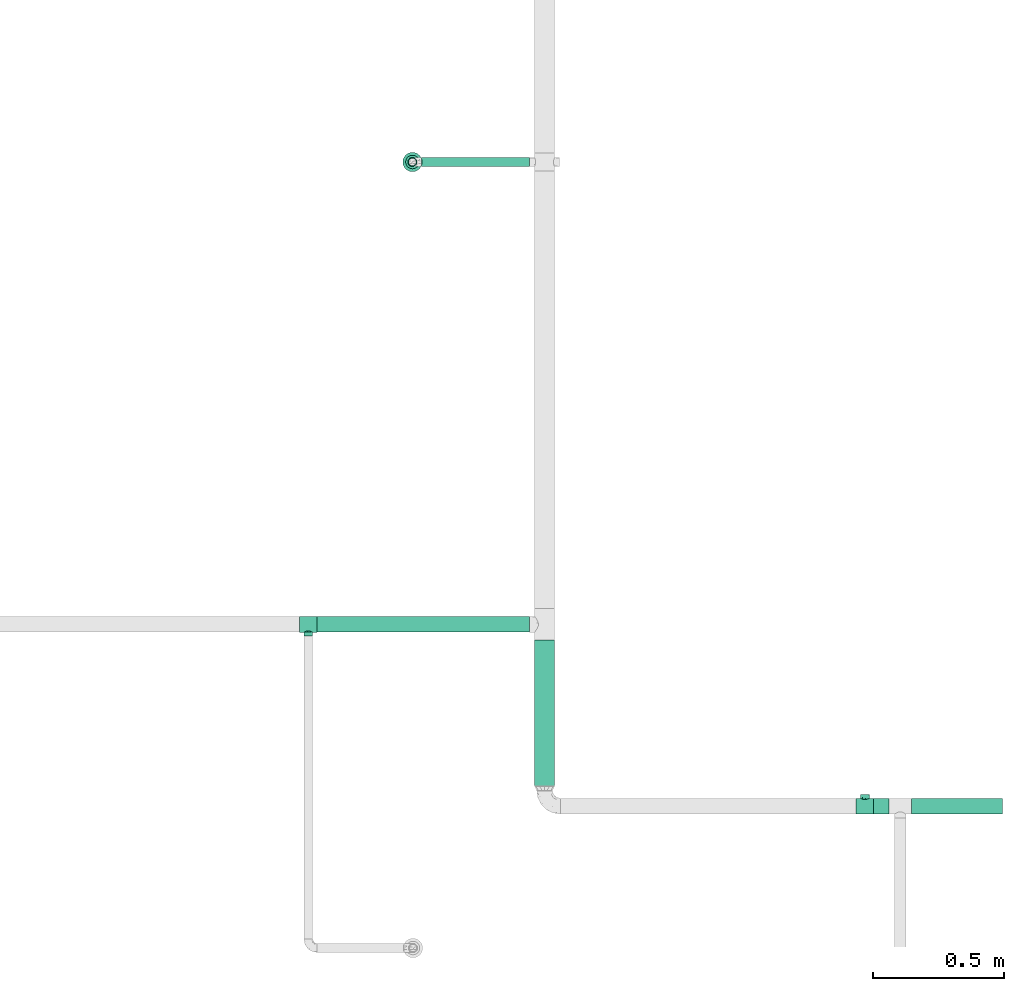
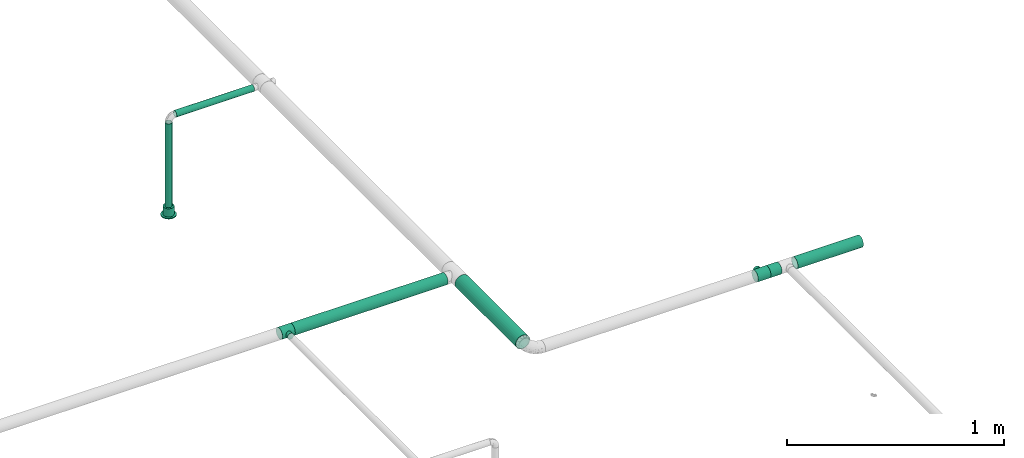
# One storey, part 27 of 95: 6 flow segments, 2 flow fittings, 1 flow terminal.
"""IFC2X3 building model written with IfcOpenShell, lengths in millimetres."""

from ifc_helpers import new_model, entity, si_unit, converted_unit, derived_unit, direction, frame, origin_with_axes, origin_2d_with_axis, place, context, subcontext, project, spatial, hollow_circle, extrude, open_shell, surface_model, source, transform, mapped, type_object, element, save


model = new_model("IFC2X3")

# Units and contexts
model_context = context("Model", 3, precision=0.01, world=frame((0.0, 4.29681676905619e-09, 0.0)), true_north=direction((4.01073788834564e-13, 1.0)))
plan_context = context("Plan", 3, precision=0.01, world=frame((0.0, 4.29681676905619e-09, 0.0)), true_north=direction((4.01073788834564e-13, 1.0)))
body_context = subcontext(model_context, "Body", "Model", "MODEL_VIEW")
ifc_project = project(units=[converted_unit("PLANEANGLEUNIT", "DEGREE", entity("IfcPositiveLengthMeasure", 0.0174532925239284), si_unit("PLANEANGLEUNIT", "RADIAN"), dimensions=[0, 0, 0, 0, 0, 0, 0]), si_unit("AREAUNIT", "SQUARE_METRE"), si_unit("LENGTHUNIT", "METRE", prefix="MILLI"), si_unit("MASSUNIT", "GRAM", prefix="KILO"), si_unit("POWERUNIT", "WATT"), si_unit("PRESSUREUNIT", "PASCAL"), si_unit("FORCEUNIT", "NEWTON", prefix="KILO"), si_unit("ELECTRICVOLTAGEUNIT", "VOLT"), si_unit("ELECTRICCURRENTUNIT", "AMPERE"), si_unit("THERMODYNAMICTEMPERATUREUNIT", "DEGREE_CELSIUS"), si_unit("TIMEUNIT", "SECOND"), si_unit("VOLUMEUNIT", "CUBIC_METRE"), derived_unit("LINEARVELOCITYUNIT", [(si_unit("LENGTHUNIT", "METRE"), 1), (si_unit("TIMEUNIT", "SECOND"), -1)]), derived_unit("VOLUMETRICFLOWRATEUNIT", [(si_unit("VOLUMEUNIT", "CUBIC_METRE"), 1), (si_unit("TIMEUNIT", "SECOND"), -1)]), derived_unit("THERMALTRANSMITTANCEUNIT", [(si_unit("POWERUNIT", "WATT"), 1), (si_unit("THERMODYNAMICTEMPERATUREUNIT", "KELVIN"), -1), (si_unit("AREAUNIT", "SQUARE_METRE"), -1)]), derived_unit("SOUNDPRESSUREUNIT", [(si_unit("PRESSUREUNIT", "PASCAL"), 1)])], contexts=[model_context, plan_context])

# Site, building, storey
site_placement = place(None, frame((0.0, -4.29681676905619e-09, 0.0), z_axis=(0.0, 0.0, 1.0), x_axis=(1.0, 0.0, 0.0)))
site = spatial("IfcSite", under=ifc_project, at=site_placement, CompositionType="ELEMENT")
building_placement = place(site_placement, frame((0.0, 4.29681676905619e-09, 0.0), z_axis=(0.0, 0.0, 1.0), x_axis=(1.0, 0.0, 0.0)))
building = spatial("IfcBuilding", under=site, at=building_placement, Name="mc-building", CompositionType="ELEMENT")
storey_placement = place(building_placement, frame((0.0, 0.0, 210900.0), z_axis=(0.0, 0.0, 1.0), x_axis=(1.0, 0.0, 0.0)))
storey = spatial("IfcBuildingStorey", under=building, at=storey_placement, Name="Nivå F", CompositionType="ELEMENT", Elevation=210900.0)

# Flow fittings
pipe_fitting_type = type_object("IfcPipeFittingType", Name="magi_pipe_fe_tee_centric_90_NOR", PredefinedType="JUNCTION")
shared_shape_1 = source(origin_with_axes(), body_context, "Body", "SurfaceModel", [
    surface_model("IfcShellBasedSurfaceModel", [(-33.8, 15.1, -26.15397), (-33.8, 7.81634, -29.17096), (-33.8, 0.0, -30.2), (-33.8, 29.17096, -7.81634), (-33.8, 26.15397, -15.1), (-33.8, 21.35462, -21.35462), (-33.8, 30.2, 0.0), (-33.8, -30.2, 0.0), (-33.8, -15.1, -26.15397), (-33.8, -21.35462, -21.35462), (-33.8, -7.81634, -29.17096), (-33.8, -26.15397, -15.1), (-33.8, -29.17096, -7.81634), (-33.8, 26.15397, 15.1), (-33.8, 29.17096, 7.81634), (-33.8, 15.1, 26.15397), (-33.8, -21.35462, 21.35462), (-33.8, 21.35462, 21.35462), (-33.8, 7.81634, 29.17096), (-33.8, -29.17096, 7.81634), (-33.8, -26.15397, 15.1), (-33.8, -7.81634, 29.17096), (-33.8, 0.0, 30.2), (-33.8, -15.1, 26.15397), (33.8, 29.17096, -7.81634), (33.8, 0.0, -30.2), (33.8, 7.81634, -29.17096), (33.8, 21.35462, -21.35462), (33.8, 15.1, -26.15397), (33.8, 26.15397, -15.1), (33.8, -30.2, 0.0), (33.8, -7.81634, -29.17096), (33.8, -21.35462, -21.35462), (33.8, -15.1, -26.15397), (33.8, -29.17096, -7.81634), (33.8, -26.15397, -15.1), (33.8, 30.2, 0.0), (33.8, 29.17096, 7.81634), (33.8, 26.15397, 15.1), (33.8, -29.17096, 7.81634), (33.8, 15.1, 26.15397), (33.8, 7.81634, 29.17096), (33.8, 21.35462, 21.35462), (33.8, -21.35462, 21.35462), (33.8, -26.15397, 15.1), (33.8, -15.1, 26.15397), (33.8, 0.0, 30.2), (33.8, -7.81634, 29.17096), (33.8, -29.68548, 3.90817), (15.846, -29.62306, 5.87488), (16.373, -29.91153, 2.93744), (12.91037, -28.16217, 10.90561), (2.99213, -25.2068, 16.63301), (16.9, -30.2, 0.0), (33.8, -27.66246, 11.45817), (8.50854, -26.43531, 14.60187), (-8.51006, -26.43579, 14.60099), (-33.8, -27.66246, 11.45817), (-12.91447, -28.16405, 10.90075), (-15.84655, -29.62335, 5.87341), (-33.8, -29.68548, 3.90817), (-16.37327, -29.91168, 2.93671), (-16.9, -30.2, 0.0), (-2.99705, -25.20739, 16.63213), (2.99213, -25.2068, -16.63301), (-16.37327, -29.91168, -2.93671), (8.50854, -26.43531, -14.60187), (33.8, -27.66246, -11.45817), (16.373, -29.91153, -2.93744), (-33.8, -29.68548, -3.90817), (-15.84655, -29.62335, -5.87341), (15.846, -29.62306, -5.87488), (12.91037, -28.16217, -10.90561), (33.8, -29.68548, -3.90817), (-2.99705, -25.20739, -16.63213), (-8.51006, -26.43579, -14.60099), (-12.91447, -28.16405, -10.90075), (-33.8, -27.66246, -11.45817), (4.37404, -45.3, -16.32415), (-16.9, -45.3, 0.0), (0.0, -45.3, -16.9), (14.63583, -45.3, -8.45), (8.45, -45.3, -14.63583), (16.32415, -45.3, -4.37404), (11.9501, -45.3, -11.9501), (-11.9501, -45.3, -11.9501), (-8.45, -45.3, -14.63583), (-4.37404, -45.3, -16.32415), (-14.63583, -45.3, -8.45), (-16.32415, -45.3, -4.37404), (16.9, -45.3, 0.0), (8.45, -45.3, 14.63583), (16.32415, -45.3, 4.37404), (14.63583, -45.3, 8.45), (-8.45, -45.3, 14.63583), (11.9501, -45.3, 11.9501), (4.37404, -45.3, 16.32415), (-16.32415, -45.3, 4.37404), (-11.9501, -45.3, 11.9501), (-14.63583, -45.3, 8.45), (0.0, -45.3, 16.9), (-4.37404, -45.3, 16.32415), (-5.75355, -25.82159, 15.61656), (-0.00246, -25.20709, 16.63257), (5.75034, -25.82105, 15.61744), (5.75034, -25.82105, -15.61744), (-0.00246, -25.20709, -16.63257), (-5.75355, -25.82159, -15.61656)], [open_shell([[[0, 1, 2]], [[3, 0, 2]], [[0, 3, 4]], [[5, 0, 4]], [[6, 2, 7]], [[8, 9, 10]], [[9, 2, 10]], [[11, 12, 9]], [[7, 9, 12]], [[9, 7, 2]], [[6, 3, 2]], [[13, 14, 6]], [[7, 15, 13]], [[7, 16, 15]], [[17, 13, 15]], [[18, 15, 16]], [[19, 20, 7]], [[7, 20, 16]], [[21, 22, 23]], [[16, 23, 22]], [[16, 22, 18]], [[7, 13, 6]], [[24, 25, 26]], [[27, 26, 28]], [[29, 24, 26]], [[29, 26, 27]], [[25, 24, 30]], [[31, 32, 33]], [[32, 31, 34]], [[32, 34, 35]], [[34, 31, 30]], [[31, 25, 30]], [[24, 36, 30]], [[36, 37, 38]], [[39, 36, 38]], [[40, 41, 38]], [[40, 38, 42]], [[43, 38, 41]], [[39, 43, 44]], [[39, 38, 43]], [[45, 46, 47]], [[46, 45, 43]], [[41, 46, 43]], [[36, 39, 30]], [[48, 39, 49]], [[30, 48, 50]], [[39, 51, 49]], [[44, 43, 52]], [[30, 50, 53]], [[51, 54, 55]], [[52, 55, 44]], [[48, 49, 50]], [[43, 16, 52]], [[55, 54, 44]], [[56, 57, 58]], [[59, 60, 61]], [[62, 61, 7]], [[59, 58, 19]], [[56, 63, 20]], [[51, 39, 54]], [[20, 57, 56]], [[20, 63, 16]], [[58, 57, 19]], [[63, 52, 16]], [[7, 61, 60]], [[59, 19, 60]], [[43, 23, 16]], [[22, 47, 46]], [[21, 45, 47]], [[18, 46, 41]], [[38, 37, 14]], [[17, 40, 42]], [[13, 42, 38]], [[41, 40, 15]], [[6, 37, 36]], [[23, 45, 21]], [[21, 47, 22]], [[18, 22, 46]], [[41, 15, 18]], [[15, 40, 17]], [[13, 17, 42]], [[14, 13, 38]], [[37, 6, 14]], [[45, 23, 43]], [[4, 24, 29]], [[3, 36, 24]], [[5, 29, 27]], [[25, 31, 10]], [[1, 28, 26]], [[2, 26, 25]], [[27, 28, 0]], [[8, 31, 33]], [[6, 36, 3]], [[3, 24, 4]], [[5, 4, 29]], [[27, 0, 5]], [[0, 28, 1]], [[2, 1, 26]], [[10, 2, 25]], [[31, 8, 10]], [[33, 9, 8]], [[32, 35, 64]], [[7, 65, 62]], [[66, 64, 35]], [[67, 66, 35]], [[32, 64, 9]], [[53, 68, 30]], [[69, 70, 65]], [[71, 72, 34]], [[71, 73, 68]], [[66, 67, 72]], [[34, 72, 67]], [[74, 75, 11]], [[76, 12, 77]], [[11, 9, 74]], [[76, 77, 75]], [[74, 9, 64]], [[76, 70, 12]], [[71, 34, 73]], [[70, 69, 12]], [[65, 7, 69]], [[30, 68, 73]], [[77, 11, 75]], [[32, 9, 33]], [[78, 79, 80]], [[81, 78, 82]], [[81, 83, 78]], [[81, 82, 84]], [[79, 78, 83]], [[80, 85, 86]], [[86, 87, 80]], [[88, 79, 89]], [[85, 80, 88]], [[79, 88, 80]], [[83, 90, 79]], [[91, 90, 92]], [[91, 92, 93]], [[94, 79, 91]], [[91, 93, 95]], [[94, 91, 96]], [[97, 98, 99]], [[98, 97, 94]], [[94, 100, 101]], [[97, 79, 94]], [[96, 100, 94]], [[91, 79, 90]], [[97, 61, 79]], [[58, 99, 98]], [[97, 99, 59]], [[98, 94, 56]], [[61, 62, 79]], [[59, 99, 58]], [[101, 63, 102]], [[56, 58, 98]], [[100, 52, 103]], [[91, 104, 96]], [[100, 96, 52]], [[50, 49, 92]], [[50, 90, 53]], [[104, 91, 55]], [[102, 94, 101]], [[102, 56, 94]], [[100, 63, 101]], [[97, 59, 61]], [[55, 91, 95]], [[95, 51, 55]], [[52, 96, 104]], [[92, 49, 93]], [[90, 50, 92]], [[93, 49, 51]], [[93, 51, 95]], [[103, 63, 100]], [[83, 68, 90]], [[72, 81, 84]], [[83, 81, 71]], [[84, 82, 66]], [[68, 53, 90]], [[71, 81, 72]], [[78, 64, 105]], [[66, 72, 84]], [[80, 74, 106]], [[86, 107, 87]], [[65, 70, 89]], [[105, 82, 78]], [[105, 66, 82]], [[75, 86, 85]], [[83, 71, 68]], [[70, 88, 89]], [[65, 79, 62]], [[85, 88, 76]], [[80, 64, 78]], [[87, 107, 74]], [[74, 80, 87]], [[75, 107, 86]], [[75, 85, 76]], [[76, 88, 70]], [[79, 65, 89]], [[106, 64, 80]]])]),
])
for number, where, z_axis, x_axis, name in (
    (1, (533699.81038, 450838.0, 4310.0), (0.0, 0.0, 1.0), (1.0, 0.0, 0.0), "magi_pipe_fe_tee_centric_90_NOR"),
    (2, (535827.14809, 450142.9624, 4310.0), (0.0, 0.0, -1.0), (1.0, 0.0, 0.0), "magi_pipe_fe_tee_centric_90_NOR"),
):
    element("IfcFlowFitting", number, at=place(storey_placement, frame(where, z_axis=z_axis, x_axis=x_axis)), inside=storey, type_object=pipe_fitting_type, Name=name, context=body_context, shape_type="MappedRepresentation", body=[
        mapped(shared_shape_1, transform((0.0, 0.0, 0.0), scale=1.0)),
    ])

# Flow segments
pipe_segment_type = type_object("IfcPipeSegmentType", Name="Stålrør normaltykke", PredefinedType="RIGIDSEGMENT")
shared_shape_2 = source(origin_with_axes(), body_context, "Body", "SweptSolid", [
    extrude(hollow_circle(Radius=38.0, WallThickness=2.0, at=origin_2d_with_axis()), frame((0.0, 0.0, 0.0), z_axis=(1.0, 0.0, 0.0), x_axis=(0.0, 1.0, 0.0)), (0.0, 0.0, 1.0), 558.4),
])
flow_segment_1_placement = place(storey_placement, frame((534602.7875, 450219.1624, 4310.0), z_axis=(0.0, 0.0, 1.0), x_axis=(0.0, 1.0, 0.0)))
element("IfcFlowSegment", 3, at=flow_segment_1_placement, inside=storey, type_object=pipe_segment_type, Name="Stålrør normaltykke", context=body_context, shape_type="MappedRepresentation", body=[
    mapped(shared_shape_2, transform((0.0, 0.0, 0.0), scale=1.0)),
])
shared_shape_3 = source(origin_with_axes(), body_context, "Body", "SweptSolid", [
    extrude(hollow_circle(Radius=16.9, WallThickness=2.0, at=origin_2d_with_axis()), frame((0.0, 0.0, 0.0), z_axis=(1.0, 0.0, 0.0), x_axis=(0.0, 1.0, 0.0)), (0.0, 0.0, 1.0), 506.9),
])
flow_segment_2_placement = place(storey_placement, frame((534097.84018, 452605.11719, 4276.20000000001), z_axis=(-0.000893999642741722, -0.99999960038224, 0.0), x_axis=(0.0, 0.0, -1.0)))
element("IfcFlowSegment", 4, at=flow_segment_2_placement, inside=storey, type_object=pipe_segment_type, Name="Stålrør normaltykke", context=body_context, shape_type="MappedRepresentation", body=[
    mapped(shared_shape_3, transform((0.0, 0.0, 0.0), scale=1.0)),
])
shared_shape_4 = source(origin_with_axes(), body_context, "Body", "SweptSolid", [
    extrude(hollow_circle(Radius=30.1, WallThickness=2.0, at=origin_2d_with_axis()), frame((0.0, 0.0, 0.0), z_axis=(1.0, 0.0, 0.0), x_axis=(0.0, 1.0, 0.0)), (0.0, 0.0, 1.0), 347.8),
])
flow_segment_3_placement = place(storey_placement, frame((536352.47584, 450142.9624, 4310.0), z_axis=(0.0, 0.0, 1.0), x_axis=(-1.0, 0.0, 0.0)))
element("IfcFlowSegment", 5, at=flow_segment_3_placement, inside=storey, type_object=pipe_segment_type, Name="Stålrør normaltykke", context=body_context, shape_type="MappedRepresentation", body=[
    mapped(shared_shape_4, transform((0.0, 0.0, 0.0), scale=1.0)),
])
shared_shape_5 = source(origin_with_axes(), body_context, "Body", "SweptSolid", [
    extrude(hollow_circle(Radius=30.1, WallThickness=2.0, at=origin_2d_with_axis()), frame((0.0, 0.0, 0.0), z_axis=(1.0, 0.0, 0.0), x_axis=(0.0, 1.0, 0.0)), (0.0, 0.0, 1.0), 812.0),
])
flow_segment_4_placement = place(storey_placement, frame((534545.6375, 450838.0, 4310.0), z_axis=(0.0, 0.0, 1.0), x_axis=(-1.0, 0.0, 0.0)))
element("IfcFlowSegment", 6, at=flow_segment_4_placement, inside=storey, type_object=pipe_segment_type, Name="Stålrør normaltykke", context=body_context, shape_type="MappedRepresentation", body=[
    mapped(shared_shape_5, transform((0.0, 0.0, 0.0), scale=1.0)),
])
shared_shape_6 = source(origin_with_axes(), body_context, "Body", "SweptSolid", [
    extrude(hollow_circle(Radius=16.9, WallThickness=2.0, at=origin_2d_with_axis()), frame((0.0, 0.0, 0.0), z_axis=(1.0, 0.0, 0.0), x_axis=(0.0, 1.0, 0.0)), (0.0, 0.0, 1.0), 414.0),
])
flow_segment_5_placement = place(storey_placement, frame((534131.64018, 452605.11719, 4310.0), z_axis=(0.0, 0.0, 1.0), x_axis=(1.0, 0.0, 0.0)))
element("IfcFlowSegment", 7, at=flow_segment_5_placement, inside=storey, type_object=pipe_segment_type, Name="Stålrør normaltykke", context=body_context, shape_type="MappedRepresentation", body=[
    mapped(shared_shape_6, transform((0.0, 0.0, 0.0), scale=1.0)),
])
shared_shape_7 = source(origin_with_axes(), body_context, "Body", "SweptSolid", [
    extrude(hollow_circle(Radius=30.1, WallThickness=2.0, at=origin_2d_with_axis()), frame((0.0, 0.0, 0.0), z_axis=(1.0, 0.0, 0.0), x_axis=(0.0, 1.0, 0.0)), (0.0, 0.0, 1.0), 58.9),
])
flow_segment_6_placement = place(storey_placement, frame((535919.84677, 450142.9624, 4310.0), z_axis=(0.0, 0.0, 1.0), x_axis=(-1.0, 0.0, 0.0)))
element("IfcFlowSegment", 8, at=flow_segment_6_placement, inside=storey, type_object=pipe_segment_type, Name="Stålrør normaltykke", context=body_context, shape_type="MappedRepresentation", body=[
    mapped(shared_shape_7, transform((0.0, 0.0, 0.0), scale=1.0)),
])

# Flow terminal
fire_suppression_terminal_type = type_object("IfcFireSuppressionTerminalType", Name="68DGR-STD-SKJULT I HIMLING", PredefinedType="NOTDEFINED")
shared_shape_8 = source(origin_with_axes(), body_context, "Body", "SurfaceModel", [
    surface_model("IfcShellBasedSurfaceModel", [(-26.0, 0.0, -46.0), (-25.11407, -6.72929, -46.0), (-25.11407, -6.72929, 0.0), (6.72929, -25.11407, 0.0), (6.72929, -25.11407, -46.0), (13.0, -22.51666, -46.0), (22.51666, -13.0, -46.0), (22.51666, -13.0, 0.0), (18.38478, -18.38478, 0.0), (25.11407, -6.72929, 0.0), (25.11407, -6.72929, -46.0), (26.0, 0.0, -46.0), (26.0, 0.0, 0.0), (25.11407, 6.72929, -46.0), (22.51666, 13.0, 0.0), (25.11407, 6.72929, 0.0), (13.0, 22.51666, -46.0), (6.72929, 25.11407, -46.0), (6.72929, 25.11407, 0.0), (18.38478, 18.38478, 0.0), (22.51666, 13.0, -46.0), (-25.11407, 6.72929, 0.0), (-25.11407, 6.72929, -46.0), (-26.16295, -26.16295, 5.0), (35.73926, -9.57631, 5.0), (37.0, 0.0, 5.0), (13.0, 22.51666, 0.0), (-26.0, 0.0, 0.0), (-13.0, 22.51666, 0.0), (-6.72929, 25.11407, 0.0), (0.0, 26.0, 0.0), (-22.51666, 13.0, 0.0), (-18.38478, 18.38478, 0.0), (13.0, -22.51666, 0.0), (0.0, -26.0, 0.0), (-22.51666, -13.0, 0.0), (-18.38478, -18.38478, 0.0), (-13.0, -22.51666, 0.0), (-6.72929, -25.11407, 0.0), (0.0, -26.0, -46.0), (18.38478, -18.38478, -46.0), (-18.38478, -18.38478, -46.0), (-13.0, -22.51666, -46.0), (-6.72929, -25.11407, -46.0), (-22.51666, -13.0, -46.0), (18.38478, 18.38478, -46.0), (-22.51666, 13.0, -46.0), (-18.38478, 18.38478, -46.0), (-13.0, 22.51666, -46.0), (-6.72929, 25.11407, -46.0), (0.0, 26.0, -46.0), (18.5, 32.04294, 5.0), (9.57631, 35.73926, 5.0), (35.73926, 9.57631, 5.0), (26.16295, 26.16295, 5.0), (32.04294, 18.5, 5.0), (-35.73926, -9.57631, 5.0), (-18.5, 32.04294, 5.0), (-9.57631, 35.73926, 5.0), (0.0, 37.0, 5.0), (-32.04294, 18.5, 5.0), (-35.73926, 9.57631, 5.0), (-26.16295, 26.16295, 5.0), (-37.0, 0.0, 5.0), (32.04294, -18.5, 5.0), (0.0, -37.0, 5.0), (26.16295, -26.16295, 5.0), (18.5, -32.04294, 5.0), (9.57631, -35.73926, 5.0), (-9.57631, -35.73926, 5.0), (-32.04294, -18.5, 5.0), (-18.5, -32.04294, 5.0), (18.5, -32.04294, 0.0), (9.57631, -35.73926, 0.0), (0.0, -37.0, 0.0), (32.04294, -18.5, 0.0), (-26.16295, -26.16295, 0.0), (26.16295, -26.16295, 0.0), (-35.73926, 9.57631, 0.0), (-18.5, -32.04294, 0.0), (-9.57631, -35.73926, 0.0), (-32.04294, -18.5, 0.0), (-35.73926, -9.57631, 0.0), (-37.0, 0.0, 0.0), (35.73926, -9.57631, 0.0), (35.73926, 9.57631, 0.0), (32.04294, 18.5, 0.0), (18.5, 32.04294, 0.0), (9.57631, 35.73926, 0.0), (26.16295, 26.16295, 0.0), (-32.04294, 18.5, 0.0), (-26.16295, 26.16295, 0.0), (-9.57631, 35.73926, 0.0), (0.0, 37.0, 0.0), (-18.5, 32.04294, 0.0), (37.0, 0.0, 0.0)], [open_shell([[[0, 1, 2]], [[3, 4, 5]], [[6, 7, 8]], [[9, 7, 10]], [[11, 12, 9]], [[13, 14, 15]], [[15, 12, 11]], [[16, 17, 18]], [[19, 14, 20]], [[21, 22, 0]], [[23, 24, 25]], [[19, 26, 18]], [[19, 18, 21]], [[27, 15, 19]], [[14, 19, 15]], [[19, 21, 27]], [[28, 21, 29]], [[18, 30, 29]], [[31, 21, 32]], [[28, 32, 21]], [[29, 21, 18]], [[12, 15, 27]], [[8, 7, 9]], [[33, 8, 9]], [[34, 3, 33]], [[9, 34, 33]], [[27, 34, 9]], [[2, 35, 27]], [[36, 27, 35]], [[37, 38, 36]], [[34, 27, 36]], [[36, 38, 34]], [[12, 27, 9]], [[5, 4, 39]], [[5, 39, 22]], [[10, 6, 40]], [[5, 10, 40]], [[39, 41, 22]], [[42, 41, 43]], [[41, 39, 43]], [[1, 0, 44]], [[44, 0, 22]], [[22, 41, 44]], [[10, 5, 22]], [[45, 13, 10]], [[20, 13, 45]], [[17, 16, 45]], [[10, 22, 45]], [[45, 22, 17]], [[46, 47, 22]], [[48, 22, 47]], [[48, 49, 22]], [[49, 17, 22]], [[49, 50, 17]], [[11, 10, 13]], [[46, 22, 21]], [[46, 31, 47]], [[49, 48, 28]], [[32, 48, 47]], [[50, 49, 29]], [[21, 0, 27]], [[21, 31, 46]], [[31, 32, 47]], [[48, 32, 28]], [[28, 29, 49]], [[29, 30, 50]], [[16, 26, 45]], [[13, 20, 14]], [[19, 20, 45]], [[11, 13, 15]], [[30, 18, 17]], [[18, 26, 16]], [[26, 19, 45]], [[50, 30, 17]], [[11, 9, 10]], [[10, 7, 6]], [[3, 39, 4]], [[6, 8, 40]], [[3, 5, 33]], [[8, 33, 5]], [[5, 40, 8]], [[3, 34, 39]], [[42, 43, 38]], [[42, 37, 41]], [[1, 44, 35]], [[36, 44, 41]], [[34, 38, 43]], [[38, 37, 42]], [[37, 36, 41]], [[36, 35, 44]], [[1, 35, 2]], [[2, 27, 0]], [[39, 34, 43]], [[51, 52, 53]], [[54, 51, 55]], [[56, 52, 57]], [[55, 51, 53]], [[52, 56, 53]], [[58, 57, 59]], [[57, 52, 59]], [[60, 61, 62]], [[57, 62, 63]], [[62, 61, 63]], [[53, 23, 25]], [[64, 24, 65]], [[66, 64, 67]], [[65, 68, 67]], [[64, 65, 67]], [[69, 65, 24]], [[70, 23, 56]], [[56, 57, 63]], [[71, 69, 23]], [[23, 53, 56]], [[24, 23, 69]], [[72, 73, 74]], [[75, 72, 74]], [[76, 75, 74]], [[77, 72, 75]], [[75, 76, 78]], [[79, 76, 80]], [[76, 74, 80]], [[81, 82, 76]], [[82, 78, 76]], [[83, 78, 82]], [[75, 78, 84]], [[85, 84, 78]], [[86, 85, 87]], [[85, 88, 87]], [[89, 86, 87]], [[88, 85, 78]], [[90, 91, 78]], [[91, 88, 78]], [[92, 93, 94]], [[88, 91, 94]], [[88, 94, 93]], [[95, 84, 85]], [[83, 61, 78]], [[78, 60, 90]], [[94, 91, 57]], [[62, 91, 90]], [[92, 94, 58]], [[61, 60, 78]], [[83, 63, 61]], [[94, 57, 58]], [[57, 91, 62]], [[90, 60, 62]], [[92, 58, 59]], [[59, 93, 92]], [[93, 52, 88]], [[88, 51, 87]], [[86, 89, 55]], [[54, 89, 87]], [[85, 86, 53]], [[51, 54, 87]], [[88, 52, 51]], [[85, 53, 25]], [[53, 86, 55]], [[89, 54, 55]], [[85, 25, 95]], [[59, 52, 93]], [[95, 24, 84]], [[84, 64, 75]], [[72, 77, 67]], [[66, 77, 75]], [[73, 72, 68]], [[24, 64, 84]], [[95, 25, 24]], [[72, 67, 68]], [[67, 77, 66]], [[75, 64, 66]], [[73, 68, 65]], [[65, 74, 73]], [[74, 69, 80]], [[80, 71, 79]], [[81, 76, 70]], [[23, 76, 79]], [[82, 81, 56]], [[71, 23, 79]], [[80, 69, 71]], [[82, 56, 63]], [[56, 81, 70]], [[76, 23, 70]], [[82, 63, 83]], [[65, 69, 74]]])]),
])
flow_terminal_placement = place(storey_placement, frame((534097.84018, 452605.11719, 3759.89999999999), z_axis=(0.0, 0.0, -1.0), x_axis=(1.0, 0.0, 0.0)))
element("IfcFlowTerminal", 9, at=flow_terminal_placement, inside=storey, type_object=fire_suppression_terminal_type, Name="68DGR-STD-SKJULT I HIMLING", context=body_context, shape_type="MappedRepresentation", body=[
    mapped(shared_shape_8, transform((0.0, 0.0, 0.0), scale=1.0)),
])

save(model, "model.ifc")
